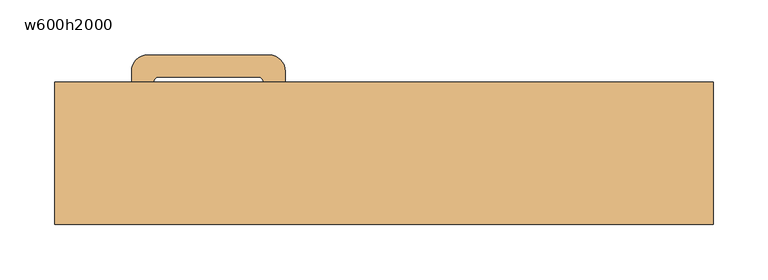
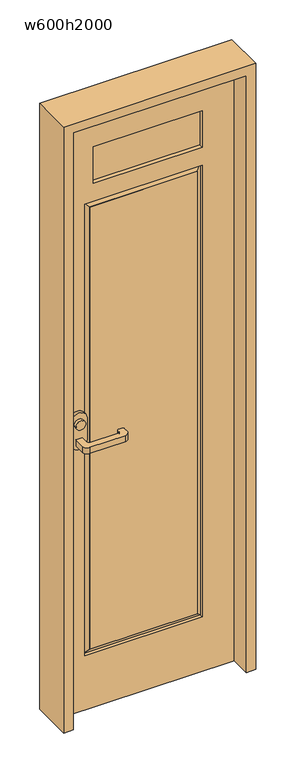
"""IFC4 building model written with IfcOpenShell, lengths in millimetres: door geometry, 片開戸CL2058 : w600h2000."""

from ifc_helpers import new_model, si_unit, point, frame, frame_2d, origin, place, context, project, spatial, polyline, circle_curve, trimmed, segment, composite_curve, outline, extrude, faceted_brep, source, transform, mapped, element, save


def w600h2000_7f2747f4(model_context):
    return source(origin(), model_context, "Body", "SolidModel", [
        extrude(outline(composite_curve([segment(polyline([(-210.0, 65.0), (-210.0, 40.0), (-230.0, 40.0), (-230.0, 75.0)]), True, "CONTINUOUS"), segment(trimmed(circle_curve(frame_2d((-215.0, 75.0)), 15.0), [point((-230.0, 75.0))], [point((-215.0, 90.0))], False, "CARTESIAN"), True, "CONTINUOUS"), segment(polyline([(-215.0, 90.0), (-105.0, 90.0)]), True, "CONTINUOUS"), segment(trimmed(circle_curve(frame_2d((-105.0, 75.0)), 15.0), [point((-105.0, 90.0))], [point((-90.0, 75.0))], False, "CARTESIAN"), True, "CONTINUOUS"), segment(polyline([(-90.0, 75.0), (-90.0, 60.0)]), True, "CONTINUOUS"), segment(trimmed(circle_curve(frame_2d((-95.0, 60.0)), 5.0), [point((-90.0, 60.0))], [point((-95.0, 55.0))], False, "CARTESIAN"), True, "CONTINUOUS"), segment(polyline([(-95.0, 55.0), (-105.0, 55.0)]), True, "CONTINUOUS"), segment(trimmed(circle_curve(frame_2d((-105.0, 60.0)), 5.0), [point((-105.0, 55.0))], [point((-110.0, 60.0))], False, "CARTESIAN"), True, "CONTINUOUS"), segment(polyline([(-110.0, 60.0), (-110.0, 65.0)]), True, "CONTINUOUS"), segment(trimmed(circle_curve(frame_2d((-115.0, 65.0)), 5.0), [point((-110.0, 65.0))], [point((-115.0, 70.0))], True, "CARTESIAN"), True, "CONTINUOUS"), segment(polyline([(-115.0, 70.0), (-205.0, 70.0)]), True, "CONTINUOUS"), segment(trimmed(circle_curve(frame_2d((-205.0, 65.0)), 5.0), [point((-205.0, 70.0))], [point((-210.0, 65.0))], True, "CARTESIAN"), True, "CONTINUOUS")], self_intersect=False)), frame((0.0, 0.0, 890.0), z_axis=(0.0, 0.0, 1.0), x_axis=(1.0, 0.0, 0.0)), (0.0, 0.0, 1.0), 20.0),
        extrude(outline(composite_curve([segment(trimmed(circle_curve(frame_2d((-205.0, -35.0)), 5.0), [point((-210.0, -35.0))], [point((-205.0, -40.0))], True, "CARTESIAN"), True, "CONTINUOUS"), segment(polyline([(-205.0, -40.0), (-115.0, -40.0)]), True, "CONTINUOUS"), segment(trimmed(circle_curve(frame_2d((-115.0, -35.0)), 5.0), [point((-115.0, -40.0))], [point((-110.0, -35.0))], True, "CARTESIAN"), True, "CONTINUOUS"), segment(polyline([(-110.0, -35.0), (-110.0, -30.0)]), True, "CONTINUOUS"), segment(trimmed(circle_curve(frame_2d((-105.0, -30.0)), 5.0), [point((-110.0, -30.0))], [point((-105.0, -25.0))], False, "CARTESIAN"), True, "CONTINUOUS"), segment(polyline([(-105.0, -25.0), (-95.0, -25.0)]), True, "CONTINUOUS"), segment(trimmed(circle_curve(frame_2d((-95.0, -30.0)), 5.0), [point((-95.0, -25.0))], [point((-90.0, -30.0))], False, "CARTESIAN"), True, "CONTINUOUS"), segment(polyline([(-90.0, -30.0), (-90.0, -45.0)]), True, "CONTINUOUS"), segment(trimmed(circle_curve(frame_2d((-105.0, -45.0)), 15.0), [point((-90.0, -45.0))], [point((-105.0, -60.0))], False, "CARTESIAN"), True, "CONTINUOUS"), segment(polyline([(-105.0, -60.0), (-215.0, -60.0)]), True, "CONTINUOUS"), segment(trimmed(circle_curve(frame_2d((-215.0, -45.0)), 15.0), [point((-215.0, -60.0))], [point((-230.0, -45.0))], False, "CARTESIAN"), True, "CONTINUOUS"), segment(polyline([(-230.0, -45.0), (-230.0, -10.0), (-210.0, -10.0), (-210.0, -35.0)]), True, "CONTINUOUS")], self_intersect=False)), frame((0.0, 0.0, 890.0), z_axis=(0.0, 0.0, 1.0), x_axis=(1.0, 0.0, 0.0)), (0.0, 0.0, 1.0), 20.0),
        extrude(outline(composite_curve([segment(trimmed(circle_curve(frame_2d((960.0, -220.0)), 15.0), [point((960.0, -205.0))], [point((960.0, -235.0))], False, "CARTESIAN"), True, "CONTINUOUS"), segment(trimmed(circle_curve(frame_2d((960.0, -220.0)), 15.0), [point((960.0, -235.0))], [point((960.0, -205.0))], False, "CARTESIAN"), True, "CONTINUOUS")], self_intersect=False)), frame((0.0, -20.0, 0.0), z_axis=(0.0, 1.0, 0.0), x_axis=(0.0, 0.0, 1.0)), (0.0, 0.0, 1.0), 10.0),
        extrude(outline(composite_curve([segment(trimmed(circle_curve(frame_2d((970.0, -220.0)), 25.0), [point((970.0, -195.0))], [point((970.0, -245.0))], False, "CARTESIAN"), True, "CONTINUOUS"), segment(polyline([(970.0, -245.0), (900.0, -245.0)]), True, "CONTINUOUS"), segment(trimmed(circle_curve(frame_2d((900.0, -220.0)), 25.0), [point((900.0, -245.0))], [point((900.0, -195.0))], False, "CARTESIAN"), True, "CONTINUOUS"), segment(polyline([(900.0, -195.0), (970.0, -195.0)]), True, "CONTINUOUS")], self_intersect=False)), frame((0.0, -10.0, 0.0), z_axis=(0.0, 1.0, 0.0), x_axis=(0.0, 0.0, 1.0)), (0.0, 0.0, 1.0), 10.0),
        extrude(outline(composite_curve([segment(trimmed(circle_curve(frame_2d((960.0, -220.0)), 15.0), [point((960.0, -205.0))], [point((960.0, -235.0))], False, "CARTESIAN"), True, "CONTINUOUS"), segment(trimmed(circle_curve(frame_2d((960.0, -220.0)), 15.0), [point((960.0, -235.0))], [point((960.0, -205.0))], False, "CARTESIAN"), True, "CONTINUOUS")], self_intersect=False)), frame((0.0, 40.0, 0.0), z_axis=(0.0, 1.0, 0.0), x_axis=(0.0, 0.0, 1.0)), (0.0, 0.0, 1.0), 10.0),
        extrude(outline(composite_curve([segment(trimmed(circle_curve(frame_2d((970.0, -220.0)), 25.0), [point((970.0, -195.0))], [point((970.0, -245.0))], False, "CARTESIAN"), True, "CONTINUOUS"), segment(polyline([(970.0, -245.0), (900.0, -245.0)]), True, "CONTINUOUS"), segment(trimmed(circle_curve(frame_2d((900.0, -220.0)), 25.0), [point((900.0, -245.0))], [point((900.0, -195.0))], False, "CARTESIAN"), True, "CONTINUOUS"), segment(polyline([(900.0, -195.0), (970.0, -195.0)]), True, "CONTINUOUS")], self_intersect=False)), frame((0.0, 30.0, 0.0), z_axis=(0.0, 1.0, 0.0), x_axis=(0.0, 0.0, 1.0)), (0.0, 0.0, 1.0), 10.0),
        extrude(outline(polyline([(170.0, 12.5), (-170.0, 12.5), (-170.0, 17.5), (170.0, 17.5), (170.0, 12.5)])), frame((0.0, 0.0, 1730.0), z_axis=(0.0, 0.0, 1.0), x_axis=(1.0, 0.0, 0.0)), (0.0, 0.0, 1.0), 120.0),
        extrude(outline(polyline([(155.0, 0.0), (-181.5, 0.0), (-181.5, 30.0), (155.0, 30.0), (155.0, 0.0)])), frame((0.0, 0.0, 195.0), z_axis=(0.0, 0.0, 1.0), x_axis=(1.0, 0.0, 0.0)), (0.0, 0.0, 1.0), 1460.0),
        faceted_brep([(-181.5, 0.0, 1655.0), (-196.5, 10.0, 1670.0), (-196.5, 10.0, 180.0), (-181.5, 0.0, 195.0), (-181.5, 30.0, 1655.0), (-181.5, 30.0, 195.0), (-196.5, 20.0, 1670.0), (-196.5, 20.0, 180.0), (170.0, 10.0, 180.0), (155.0, 0.0, 195.0), (155.0, 30.0, 195.0), (170.0, 20.0, 180.0), (170.0, 10.0, 1670.0), (155.0, 0.0, 1655.0), (155.0, 30.0, 1655.0), (170.0, 20.0, 1670.0)], [[[0, 1, 2, 3]], [[4, 0, 3, 5]], [[6, 4, 5, 7]], [[1, 6, 7, 2]], [[3, 2, 8, 9]], [[5, 3, 9, 10]], [[7, 5, 10, 11]], [[2, 7, 11, 8]], [[9, 8, 12, 13]], [[10, 9, 13, 14]], [[11, 10, 14, 15]], [[8, 11, 15, 12]], [[13, 12, 1, 0]], [[14, 13, 0, 4]], [[15, 14, 4, 6]], [[12, 15, 6, 1]]]),
        extrude(outline(polyline([(1970.0, 270.0), (1970.0, -270.0), (0.0, -270.0), (0.0, 270.0), (1970.0, 270.0)]), holes=[polyline([(180.0, 170.0), (180.0, -196.5), (1670.0, -196.5), (1670.0, 170.0), (180.0, 170.0)]), polyline([(1730.0, -170.0), (1850.0, -170.0), (1850.0, 170.0), (1730.0, 170.0), (1730.0, -170.0)])]), frame((0.0, 0.0, 0.0), z_axis=(0.0, 1.0, 0.0), x_axis=(0.0, 0.0, 1.0)), (0.0, 0.0, 1.0), 30.0),
        extrude(outline(polyline([(0.0, 270.0), (0.0, 300.0), (2000.0, 300.0), (2000.0, -300.0), (0.0, -300.0), (0.0, -270.0), (1970.0, -270.0), (1970.0, 270.0), (0.0, 270.0)])), frame((0.0, -65.0, 0.0), z_axis=(0.0, 1.0, 0.0), x_axis=(0.0, 0.0, 1.0)), (0.0, 0.0, 1.0), 130.0),
    ])


if __name__ == "__main__":
    model = new_model("IFC4")
    model_context = context("Model", 3, world=origin())
    ifc_project = project(units=[si_unit("LENGTHUNIT", "METRE", prefix="MILLI")], contexts=[model_context])
    site = spatial("IfcSite", under=ifc_project)
    building = spatial("IfcBuilding", under=site)
    placement = place(None, origin())
    w600h2000_shape = w600h2000_7f2747f4(model_context)
    element("IfcDoor", 1, ObjectType="片開戸CL2058 : w600h2000", at=placement, inside=building, context=model_context, shape_type="MappedRepresentation", body=[
        mapped(w600h2000_shape, transform((0.0, 0.0, 0.0), x_axis=(1.0, 0.0, 0.0), y_axis=(0.0, 1.0, 0.0), z_axis=(0.0, 0.0, 1.0))),
    ])
    save(model, "model.ifc")
